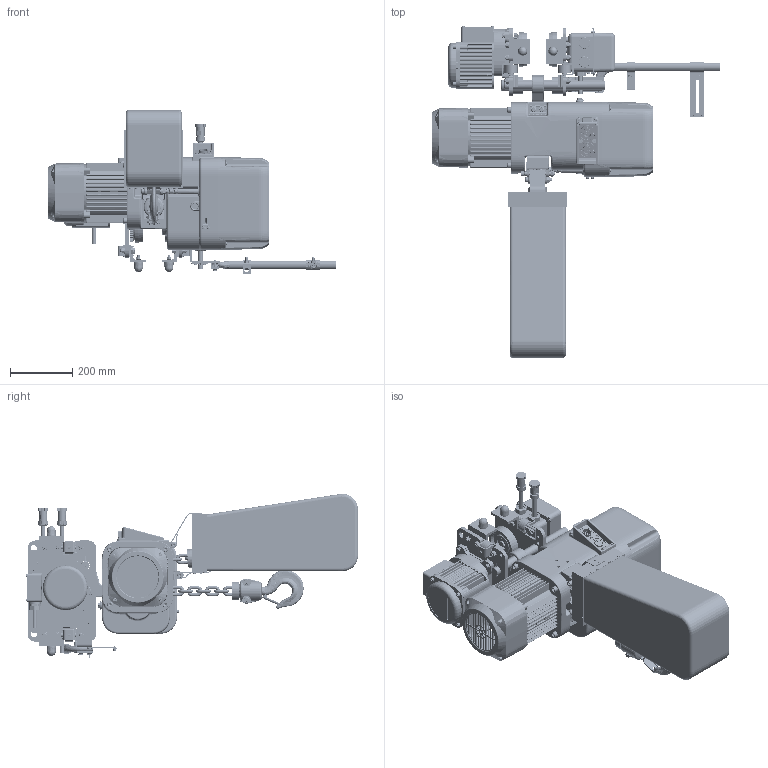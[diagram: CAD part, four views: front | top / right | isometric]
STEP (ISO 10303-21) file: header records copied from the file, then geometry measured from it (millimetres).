
FILE_DESCRIPTION (( 'STEP AP214' ), '1' );
FILE_NAME ('NER2M015SD-SD.STEP', '2026-08-07T12:38:02', ( '' ), ( '' ), 'SwSTEP 2.0', 'SolidWorks 2026', '' );
FILE_SCHEMA (( 'AUTOMOTIVE_DESIGN' ));
Length unit declared in the file: inch
Products named in the file (145): ECP6912AA; ER2ES9331; MR1DS9496; MR1ES9202; MR1ES9203; E6F151003; ER2ES9337; ER2ES9101; 90912134; 9093352_9093352; ER2EM1011; M6F554010; ER2CS2564; LCER2020NP (SHAPED 3); 9047252_9047252; MR1DS9481; MS561010; MS554010; ER1ES9053; M6SE020S9102; ER2ES9121; MR2SHM15S9A71; ER2ES5405; MR1DS9325; ER2EI9185_ER2EI9185; 70131XX_7013106; MR1DS9501; LCER2020NP; MR1ES9131; MR1ES9205; ECP5924AH; 458767_B18.3.1M - 6 x 1.0 x 12 Hex SHCS -- 12CHX; MR1DS9493; MSF115020; ECP5924AA1; ER2ES9031; MS527010; MR1ES9204; ER2CS9357; 16-6 (MR2)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
Assembly tree (330 placements, depth 6):
  NER2M015SD-SD
    MR2015SD_5" FLANGE
      MR1ES5202
        MR1ES9202
        MR1ES9203  x2
        MR1ES9205
      MSF115020
      MS1101020  x2
        M6SE020S91013
        6304Z Bearing
        9047252_9047252
      MR1ES5201
        MR1ES9201
        MR1ES9203  x2
        MR1ES9204
      MS1102020  x2
        M6SE020S9102
        6304Z Bearing
        9047252_9047252
      MS006020  x4
      MR1ES12112  x2
        M7SE020S91422
        J1PS31-050025
        MR1ES22111
        MR2DS92171
        MR1ES92151
        MR1ES9218
      MR1ES12112_Reversed  x2
        M7SE020S91422
        J1PS31-050025
        MR1ES22111
        MR2DS92171
        MR1ES92151
        MR1ES9218
      9093351_9093351  x4
      spring lock washer_2_jis_9012712  x14
      9093427_9093427  x12
      MR1ES9634  x4
      9093352_9093352  x8
      MR1DS9631  x4
      single coil rectangular section spring washer_bsi_9012711  x8
      hex nut style 1_am_9093424  x4
      MS161020
      MS164020
      9009432_9009432
      MR1ES9131
      9009446_9009446  x2
      MR2SHM10S9A8
      Socket Head Cap Screw_AM_B18.3.1M - 10 x 1.5 x 20 Hex SHCS -- 20NHX  x2
      MR1DS1491
        MR1DS9491
        MR1DS9492
        MR1DS9501
        MR1DS1493
          MR1DS9493
          single coil rectangular section spring washer_bsi_9012711
          M6F554010  x2
          MR1DS9496
          hex nut style 1_am_9093424
          hex cap screw_am_9093329
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Bounding box: 924.93 x 1065.68 x 527.64 mm (x, y, z)
Volume: 45379038.4 mm3; surface area: 4858432.4 mm2
Topology: 363 solids, 380 shells, 15556 faces, 40662 edges, 26088 vertices
Faces by surface type: plane 6781, cylinder 5092, cone 1313, torus 1037, bspline 1004, sphere 329
Entity records: 367991 total; most frequent: CARTESIAN_POINT 134407, ORIENTED_EDGE 46974, DIRECTION 46340, EDGE_CURVE 23489, AXIS2_PLACEMENT_3D 17538, VERTEX_POINT 15307, VECTOR 11264, LINE 11264
